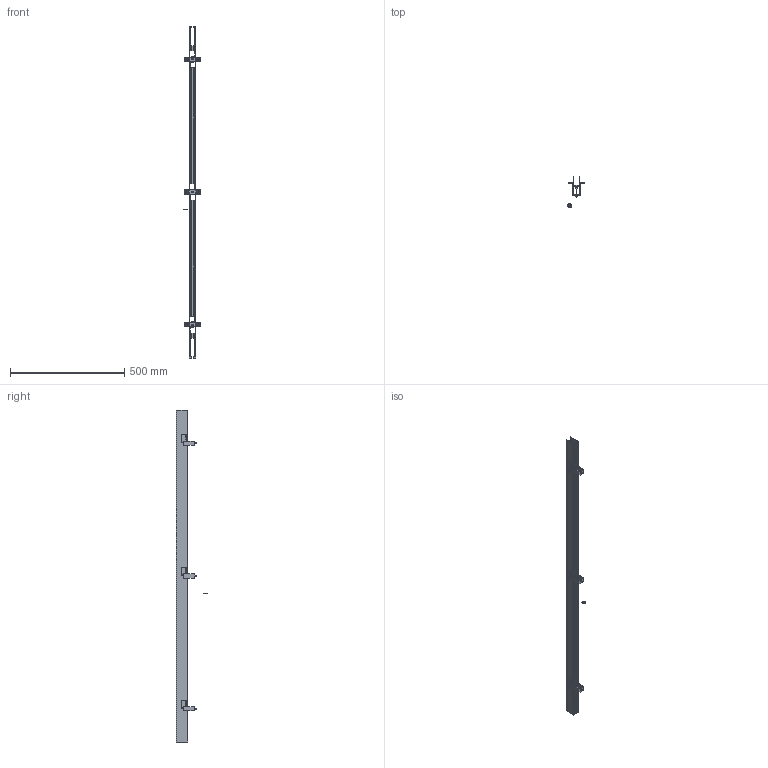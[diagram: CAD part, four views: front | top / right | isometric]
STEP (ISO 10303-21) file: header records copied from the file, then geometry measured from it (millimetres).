
FILE_DESCRIPTION(/* description */ ('Unknown'),/* implementation_level */ '2;1');
FILE_NAME(/* name */ '98369',/* time_stamp */ '2023-02-07T07:43:44-05:00',/* author */ ('Unknown'),/* organization */ ('Unknown'),/* preprocessor_version */ 'ST-DEVELOPER v18.1',/* originating_system */ 'Solid Edge',/* authorisation */ 'Unknown');
FILE_SCHEMA (('AUTOMOTIVE_DESIGN {1 0 10303 214 3 1 1}'));
Length unit declared in the file: millimetre
Products named in the file (9): CONTROCASSA_PER _CARTONGESSO; LED-PRO862; LED-VIT061; LED-RON101; LED-RON006; LED-DAD026; STAFFA+INSERTO; LED-STA310; INSERTO
Assembly tree (19 placements, depth 3):
  CONTROCASSA_PER _CARTONGESSO
    LED-PRO862
    LED-VIT061  x3
    LED-RON101  x4
    LED-RON006  x3
    LED-DAD026  x3
    STAFFA+INSERTO  x3
      LED-STA310
      INSERTO
Bounding box: 73.87 x 136.35 x 1453 mm (x, y, z)
Volume: 329729.4 mm3; surface area: 394247.3 mm2
Topology: 20 solids, 20 shells, 730 faces, 2132 edges, 1442 vertices
Faces by surface type: cylinder 431, plane 246, cone 33, torus 20
Full cylindrical faces by diameter (mm): 2.8 x162, 3.422 x6, 4 x3, 4.2 x3, 5 x6, 5.9 x3, 6 x3, 6.4 x4, 8 x3, 8.8 x3, 10 x3, 18 x4
Entity records: 16212 total; most frequent: CARTESIAN_POINT 3174, DIRECTION 2626, ORIENTED_EDGE 2542, EDGE_CURVE 1271, AXIS2_PLACEMENT_3D 1003, VERTEX_POINT 899, EDGE_LOOP 670, FACE_BOUND 670
